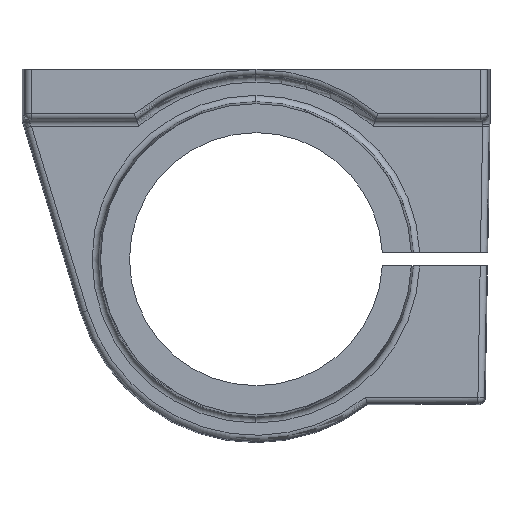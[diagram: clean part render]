
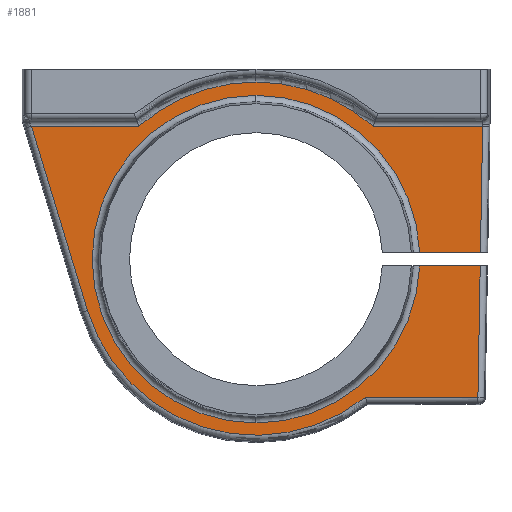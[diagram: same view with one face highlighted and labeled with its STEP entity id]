
A CAD part, front view. The second image highlights one B-rep face of the part: STEP entity #1881.
In plain terms, the highlighted planar face has unit normal (0, -1, 0).
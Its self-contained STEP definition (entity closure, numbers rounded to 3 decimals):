
#11 = VECTOR ( 'NONE', #1013, 1000. ) ;
#55 = EDGE_CURVE ( 'NONE', #1348, #2414, #3661, .T. ) ;
#61 = ORIENTED_EDGE ( 'NONE', *, *, #451, .T. ) ;
#77 = AXIS2_PLACEMENT_3D ( 'NONE', #456, #3213, #3530 ) ;
#185 = CARTESIAN_POINT ( 'NONE',  ( 0., -10., -28. ) ) ;
#231 = VECTOR ( 'NONE', #869, 1000. ) ;
#251 = VERTEX_POINT ( 'NONE', #3469 ) ;
#258 = EDGE_CURVE ( 'NONE', #3139, #3571, #3231, .T. ) ;
#269 = EDGE_CURVE ( 'NONE', #3413, #4119, #4127, .T. ) ;
#345 = CARTESIAN_POINT ( 'NONE',  ( -26.639, -10., -36.1 ) ) ;
#360 = VERTEX_POINT ( 'NONE', #2912 ) ;
#368 = CARTESIAN_POINT ( 'NONE',  ( 35.44, -10., -29.075 ) ) ;
#388 = CARTESIAN_POINT ( 'NONE',  ( 0., -10., 0. ) ) ;
#417 = EDGE_CURVE ( 'NONE', #3571, #1852, #1471, .T. ) ;
#436 = DIRECTION ( 'NONE',  ( 0.017, 0., 1. ) ) ;
#443 = DIRECTION ( 'NONE',  ( 1., 0., 0. ) ) ;
#451 = EDGE_CURVE ( 'NONE', #360, #251, #2009, .T. ) ;
#456 = CARTESIAN_POINT ( 'NONE',  ( 0., -10., -28. ) ) ;
#495 = LINE ( 'NONE', #3504, #231 ) ;
#497 = CIRCLE ( 'NONE', #1261, 25.896 ) ;
#502 = CIRCLE ( 'NONE', #3723, 28. ) ;
#529 = EDGE_CURVE ( 'NONE', #251, #2308, #2929, .T. ) ;
#586 = DIRECTION ( 'NONE',  ( 1., 0., 0. ) ) ;
#685 = EDGE_CURVE ( 'NONE', #2555, #3139, #497, .T. ) ;
#702 = VECTOR ( 'NONE', #2900, 1000. ) ;
#722 = VERTEX_POINT ( 'NONE', #388 ) ;
#734 = ORIENTED_EDGE ( 'NONE', *, *, #258, .T. ) ;
#778 = DIRECTION ( 'NONE',  ( 0., -1., 0. ) ) ;
#807 = DIRECTION ( 'NONE',  ( 0., 0., 1. ) ) ;
#822 = ORIENTED_EDGE ( 'NONE', *, *, #685, .T. ) ;
#841 = EDGE_CURVE ( 'NONE', #722, #3193, #2519, .T. ) ;
#869 = DIRECTION ( 'NONE',  ( -1., 0., 0. ) ) ;
#915 = VECTOR ( 'NONE', #1305, 1000. ) ;
#1013 = DIRECTION ( 'NONE',  ( -1., 0., 0. ) ) ;
#1054 = ORIENTED_EDGE ( 'NONE', *, *, #2445, .T. ) ;
#1063 = CARTESIAN_POINT ( 'NONE',  ( 0., -10., -28. ) ) ;
#1083 = EDGE_CURVE ( 'NONE', #2308, #2555, #4028, .T. ) ;
#1151 = CARTESIAN_POINT ( 'NONE',  ( -26.639, -10., -36.1 ) ) ;
#1245 = CARTESIAN_POINT ( 'NONE',  ( 25.874, -10., -26.925 ) ) ;
#1261 = AXIS2_PLACEMENT_3D ( 'NONE', #1063, #2773, #4123 ) ;
#1305 = DIRECTION ( 'NONE',  ( 0.017, 0., 1. ) ) ;
#1326 = CARTESIAN_POINT ( 'NONE',  ( 36.043, -10., -49.843 ) ) ;
#1347 = LINE ( 'NONE', #3823, #1901 ) ;
#1348 = VERTEX_POINT ( 'NONE', #3287 ) ;
#1361 = ORIENTED_EDGE ( 'NONE', *, *, #55, .T. ) ;
#1402 = CARTESIAN_POINT ( 'NONE',  ( 0., -10., -28. ) ) ;
#1403 = CARTESIAN_POINT ( 'NONE',  ( 35.825, -10., -7. ) ) ;
#1437 = ORIENTED_EDGE ( 'NONE', *, *, #417, .T. ) ;
#1471 = CIRCLE ( 'NONE', #3445, 25.896 ) ;
#1507 = CARTESIAN_POINT ( 'NONE',  ( -18.52, -10., -7. ) ) ;
#1668 = ORIENTED_EDGE ( 'NONE', *, *, #2060, .T. ) ;
#1695 = EDGE_CURVE ( 'NONE', #1852, #3413, #1347, .T. ) ;
#1710 = DIRECTION ( 'NONE',  ( -1., 0., 0. ) ) ;
#1748 = CARTESIAN_POINT ( 'NONE',  ( 0., -10., -28. ) ) ;
#1775 = CARTESIAN_POINT ( 'NONE',  ( 18.894, -10., -7. ) ) ;
#1821 = AXIS2_PLACEMENT_3D ( 'NONE', #1748, #2064, #2802 ) ;
#1847 = ORIENTED_EDGE ( 'NONE', *, *, #529, .T. ) ;
#1852 = VERTEX_POINT ( 'NONE', #1245 ) ;
#1881 = ADVANCED_FACE ( 'NONE', ( #3843 ), #2235, .F. ) ;
#1901 = VECTOR ( 'NONE', #443, 1000. ) ;
#2000 = CARTESIAN_POINT ( 'NONE',  ( 0., -10., -29.075 ) ) ;
#2009 = LINE ( 'NONE', #1326, #2111 ) ;
#2041 = DIRECTION ( 'NONE',  ( 0., 0., 1. ) ) ;
#2060 = EDGE_CURVE ( 'NONE', #4119, #3527, #3468, .T. ) ;
#2064 = DIRECTION ( 'NONE',  ( 0., 1., 0. ) ) ;
#2111 = VECTOR ( 'NONE', #586, 1000. ) ;
#2235 = PLANE ( 'NONE',  #3865 ) ;
#2284 = CARTESIAN_POINT ( 'NONE',  ( 0., -10., -2.104 ) ) ;
#2308 = VERTEX_POINT ( 'NONE', #368 ) ;
#2414 = VERTEX_POINT ( 'NONE', #1151 ) ;
#2445 = EDGE_CURVE ( 'NONE', #2414, #360, #4214, .T. ) ;
#2519 = CIRCLE ( 'NONE', #77, 28. ) ;
#2555 = VERTEX_POINT ( 'NONE', #2979 ) ;
#2563 = ORIENTED_EDGE ( 'NONE', *, *, #1695, .T. ) ;
#2638 = EDGE_CURVE ( 'NONE', #3527, #722, #502, .T. ) ;
#2773 = DIRECTION ( 'NONE',  ( 0., 1., 0. ) ) ;
#2800 = VECTOR ( 'NONE', #436, 1000. ) ;
#2802 = DIRECTION ( 'NONE',  ( 0., 0., 1. ) ) ;
#2850 = DIRECTION ( 'NONE',  ( 0., 0., 1. ) ) ;
#2875 = AXIS2_PLACEMENT_3D ( 'NONE', #3781, #778, #807 ) ;
#2884 = CARTESIAN_POINT ( 'NONE',  ( 35.477, -10., -26.925 ) ) ;
#2899 = ORIENTED_EDGE ( 'NONE', *, *, #1083, .T. ) ;
#2900 = DIRECTION ( 'NONE',  ( 0.291, 0., -0.957 ) ) ;
#2912 = CARTESIAN_POINT ( 'NONE',  ( 17.266, -10., -49.843 ) ) ;
#2929 = LINE ( 'NONE', #3614, #915 ) ;
#2970 = ORIENTED_EDGE ( 'NONE', *, *, #269, .T. ) ;
#2979 = CARTESIAN_POINT ( 'NONE',  ( 25.874, -10., -29.075 ) ) ;
#3135 = CARTESIAN_POINT ( 'NONE',  ( 35.833, -10., -6.554 ) ) ;
#3139 = VERTEX_POINT ( 'NONE', #3487 ) ;
#3193 = VERTEX_POINT ( 'NONE', #1507 ) ;
#3213 = DIRECTION ( 'NONE',  ( 0., -1., 0. ) ) ;
#3231 = CIRCLE ( 'NONE', #1821, 25.896 ) ;
#3260 = CARTESIAN_POINT ( 'NONE',  ( 18.52, -10., -7. ) ) ;
#3267 = DIRECTION ( 'NONE',  ( 0., 0., 1. ) ) ;
#3287 = CARTESIAN_POINT ( 'NONE',  ( -35.486, -10., -7. ) ) ;
#3383 = EDGE_CURVE ( 'NONE', #3193, #1348, #495, .T. ) ;
#3413 = VERTEX_POINT ( 'NONE', #2884 ) ;
#3445 = AXIS2_PLACEMENT_3D ( 'NONE', #3921, #4320, #3267 ) ;
#3468 = LINE ( 'NONE', #1775, #3685 ) ;
#3469 = CARTESIAN_POINT ( 'NONE',  ( 35.077, -10., -49.843 ) ) ;
#3487 = CARTESIAN_POINT ( 'NONE',  ( 0., -10., -53.896 ) ) ;
#3504 = CARTESIAN_POINT ( 'NONE',  ( -36.815, -10., -7. ) ) ;
#3517 = DIRECTION ( 'NONE',  ( 0., 1., 0. ) ) ;
#3527 = VERTEX_POINT ( 'NONE', #3260 ) ;
#3530 = DIRECTION ( 'NONE',  ( 0., 0., 1. ) ) ;
#3571 = VERTEX_POINT ( 'NONE', #2284 ) ;
#3614 = CARTESIAN_POINT ( 'NONE',  ( 35.833, -10., -6.554 ) ) ;
#3661 = LINE ( 'NONE', #345, #702 ) ;
#3679 = EDGE_LOOP ( 'NONE', ( #822, #734, #1437, #2563, #2970, #1668, #3753, #3937, #4115, #1361, #1054, #61, #1847, #2899 ) ) ;
#3685 = VECTOR ( 'NONE', #1710, 1000. ) ;
#3705 = DIRECTION ( 'NONE',  ( 0., -1., 0. ) ) ;
#3723 = AXIS2_PLACEMENT_3D ( 'NONE', #1402, #3705, #2041 ) ;
#3753 = ORIENTED_EDGE ( 'NONE', *, *, #2638, .T. ) ;
#3781 = CARTESIAN_POINT ( 'NONE',  ( 0., -10., -28. ) ) ;
#3823 = CARTESIAN_POINT ( 'NONE',  ( 0., -10., -26.925 ) ) ;
#3843 = FACE_OUTER_BOUND ( 'NONE', #3679, .T. ) ;
#3865 = AXIS2_PLACEMENT_3D ( 'NONE', #185, #3517, #2850 ) ;
#3921 = CARTESIAN_POINT ( 'NONE',  ( 0., -10., -28. ) ) ;
#3937 = ORIENTED_EDGE ( 'NONE', *, *, #841, .T. ) ;
#4028 = LINE ( 'NONE', #2000, #11 ) ;
#4115 = ORIENTED_EDGE ( 'NONE', *, *, #3383, .T. ) ;
#4119 = VERTEX_POINT ( 'NONE', #1403 ) ;
#4123 = DIRECTION ( 'NONE',  ( 0., 0., 1. ) ) ;
#4127 = LINE ( 'NONE', #3135, #2800 ) ;
#4214 = CIRCLE ( 'NONE', #2875, 27.843 ) ;
#4320 = DIRECTION ( 'NONE',  ( 0., 1., 0. ) ) ;
